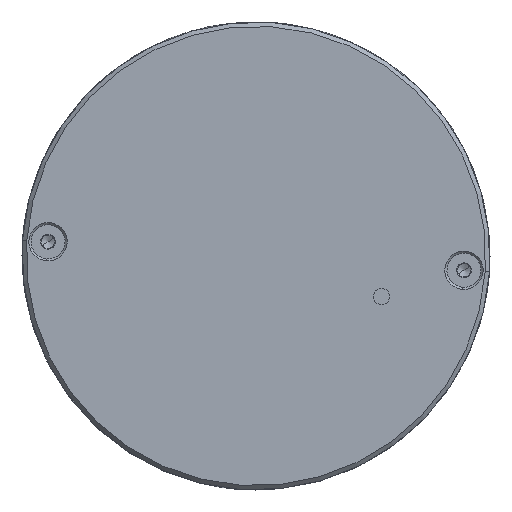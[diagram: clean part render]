
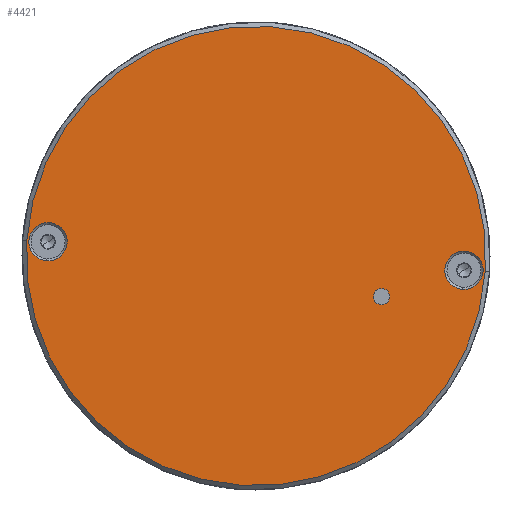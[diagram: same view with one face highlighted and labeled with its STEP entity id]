
A CAD part, front view. The second image highlights one B-rep face of the part: STEP entity #4421.
In plain terms, the highlighted planar face has unit normal (0, -1, 0).
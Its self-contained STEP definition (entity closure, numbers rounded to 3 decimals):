
#383 = AXIS2_PLACEMENT_3D ( 'NONE', #3461, #8295, #21849 ) ;
#403 = AXIS2_PLACEMENT_3D ( 'NONE', #5968, #5858, #16121 ) ;
#1500 = FACE_BOUND ( 'NONE', #8417, .T. ) ;
#1774 = CARTESIAN_POINT ( 'NONE',  ( 24.289, -3.5, -3.919 ) ) ;
#1918 = VERTEX_POINT ( 'NONE', #3049 ) ;
#2400 = EDGE_CURVE ( 'NONE', #18230, #5404, #8924, .T. ) ;
#2445 = EDGE_CURVE ( 'NONE', #20535, #15727, #9640, .T. ) ;
#3049 = CARTESIAN_POINT ( 'NONE',  ( 24.596, -3.5, 0.57 ) ) ;
#3367 = EDGE_CURVE ( 'NONE', #12667, #12009, #15763, .T. ) ;
#3461 = CARTESIAN_POINT ( 'NONE',  ( 24.443, -3.5, -1.674 ) ) ;
#3484 = ORIENTED_EDGE ( 'NONE', *, *, #10728, .F. ) ;
#3856 = DIRECTION ( 'NONE',  ( 0., -1., 0. ) ) ;
#3975 = AXIS2_PLACEMENT_3D ( 'NONE', #8561, #17060, #17396 ) ;
#4124 = CIRCLE ( 'NONE', #5218, 27. ) ;
#4421 = ADVANCED_FACE ( 'NONE', ( #1500, #18974, #8774, #10761 ), #7085, .T. ) ;
#5196 = DIRECTION ( 'NONE',  ( 0., -1., 0. ) ) ;
#5218 = AXIS2_PLACEMENT_3D ( 'NONE', #18774, #5196, #12026 ) ;
#5404 = VERTEX_POINT ( 'NONE', #10530 ) ;
#5408 = CARTESIAN_POINT ( 'NONE',  ( 0., -3.5, 0. ) ) ;
#5673 = DIRECTION ( 'NONE',  ( 0.998, 0., -0.068 ) ) ;
#5845 = DIRECTION ( 'NONE',  ( 0., -1., 0. ) ) ;
#5858 = DIRECTION ( 'NONE',  ( 0., -1., 0. ) ) ;
#5959 = DIRECTION ( 'NONE',  ( 0.998, 0., -0.068 ) ) ;
#5968 = CARTESIAN_POINT ( 'NONE',  ( 14.748, -3.5, -4.769 ) ) ;
#6159 = ORIENTED_EDGE ( 'NONE', *, *, #2445, .F. ) ;
#6373 = ORIENTED_EDGE ( 'NONE', *, *, #2400, .T. ) ;
#6862 = CIRCLE ( 'NONE', #403, 0.95 ) ;
#6944 = ORIENTED_EDGE ( 'NONE', *, *, #10637, .F. ) ;
#7085 = PLANE ( 'NONE',  #13059 ) ;
#7467 = CARTESIAN_POINT ( 'NONE',  ( -24.443, -3.5, 1.674 ) ) ;
#7634 = VERTEX_POINT ( 'NONE', #1774 ) ;
#8295 = DIRECTION ( 'NONE',  ( 0., -1., 0. ) ) ;
#8417 = EDGE_LOOP ( 'NONE', ( #3484, #20933 ) ) ;
#8561 = CARTESIAN_POINT ( 'NONE',  ( -24.443, -3.5, 1.674 ) ) ;
#8774 = FACE_BOUND ( 'NONE', #12295, .T. ) ;
#8916 = ORIENTED_EDGE ( 'NONE', *, *, #17717, .T. ) ;
#8924 = CIRCLE ( 'NONE', #11045, 27. ) ;
#9329 = ORIENTED_EDGE ( 'NONE', *, *, #16614, .F. ) ;
#9392 = EDGE_LOOP ( 'NONE', ( #6373, #8916 ) ) ;
#9640 = CIRCLE ( 'NONE', #18951, 2.25 ) ;
#10530 = CARTESIAN_POINT ( 'NONE',  ( 26.937, -3.5, -1.845 ) ) ;
#10637 = EDGE_CURVE ( 'NONE', #15727, #20535, #13290, .T. ) ;
#10728 = EDGE_CURVE ( 'NONE', #12009, #12667, #6862, .T. ) ;
#10761 = FACE_OUTER_BOUND ( 'NONE', #9392, .T. ) ;
#11045 = AXIS2_PLACEMENT_3D ( 'NONE', #19661, #14147, #14358 ) ;
#11843 = AXIS2_PLACEMENT_3D ( 'NONE', #20798, #3856, #5673 ) ;
#12009 = VERTEX_POINT ( 'NONE', #16006 ) ;
#12026 = DIRECTION ( 'NONE',  ( 0.998, 0., -0.068 ) ) ;
#12295 = EDGE_LOOP ( 'NONE', ( #6944, #6159 ) ) ;
#12608 = DIRECTION ( 'NONE',  ( 0., -1., 0. ) ) ;
#12667 = VERTEX_POINT ( 'NONE', #13411 ) ;
#13059 = AXIS2_PLACEMENT_3D ( 'NONE', #5408, #5845, #5959 ) ;
#13192 = EDGE_CURVE ( 'NONE', #1918, #7634, #17565, .T. ) ;
#13290 = CIRCLE ( 'NONE', #3975, 2.25 ) ;
#13411 = CARTESIAN_POINT ( 'NONE',  ( 13.8, -3.5, -4.704 ) ) ;
#13594 = DIRECTION ( 'NONE',  ( -0.068, 0., -0.998 ) ) ;
#14147 = DIRECTION ( 'NONE',  ( 0., -1., 0. ) ) ;
#14358 = DIRECTION ( 'NONE',  ( 0.998, 0., -0.068 ) ) ;
#15727 = VERTEX_POINT ( 'NONE', #19799 ) ;
#15763 = CIRCLE ( 'NONE', #11843, 0.95 ) ;
#16006 = CARTESIAN_POINT ( 'NONE',  ( 15.696, -3.5, -4.834 ) ) ;
#16121 = DIRECTION ( 'NONE',  ( 0.998, 0., -0.068 ) ) ;
#16614 = EDGE_CURVE ( 'NONE', #7634, #1918, #19448, .T. ) ;
#17060 = DIRECTION ( 'NONE',  ( 0., -1., 0. ) ) ;
#17295 = EDGE_LOOP ( 'NONE', ( #9329, #21755 ) ) ;
#17396 = DIRECTION ( 'NONE',  ( -0.068, 0., -0.998 ) ) ;
#17565 = CIRCLE ( 'NONE', #383, 2.25 ) ;
#17717 = EDGE_CURVE ( 'NONE', #5404, #18230, #4124, .T. ) ;
#18230 = VERTEX_POINT ( 'NONE', #21441 ) ;
#18774 = CARTESIAN_POINT ( 'NONE',  ( 0., -3.5, 0. ) ) ;
#18951 = AXIS2_PLACEMENT_3D ( 'NONE', #7467, #12608, #19476 ) ;
#18974 = FACE_BOUND ( 'NONE', #17295, .T. ) ;
#19114 = CARTESIAN_POINT ( 'NONE',  ( 24.443, -3.5, -1.674 ) ) ;
#19448 = CIRCLE ( 'NONE', #19820, 2.25 ) ;
#19476 = DIRECTION ( 'NONE',  ( -0.068, 0., -0.998 ) ) ;
#19661 = CARTESIAN_POINT ( 'NONE',  ( 0., -3.5, 0. ) ) ;
#19799 = CARTESIAN_POINT ( 'NONE',  ( -24.596, -3.5, -0.57 ) ) ;
#19820 = AXIS2_PLACEMENT_3D ( 'NONE', #19114, #22030, #13594 ) ;
#20535 = VERTEX_POINT ( 'NONE', #21988 ) ;
#20798 = CARTESIAN_POINT ( 'NONE',  ( 14.748, -3.5, -4.769 ) ) ;
#20933 = ORIENTED_EDGE ( 'NONE', *, *, #3367, .F. ) ;
#21441 = CARTESIAN_POINT ( 'NONE',  ( -26.937, -3.5, 1.845 ) ) ;
#21755 = ORIENTED_EDGE ( 'NONE', *, *, #13192, .F. ) ;
#21849 = DIRECTION ( 'NONE',  ( -0.068, 0., -0.998 ) ) ;
#21988 = CARTESIAN_POINT ( 'NONE',  ( -24.289, -3.5, 3.919 ) ) ;
#22030 = DIRECTION ( 'NONE',  ( 0., -1., 0. ) ) ;
